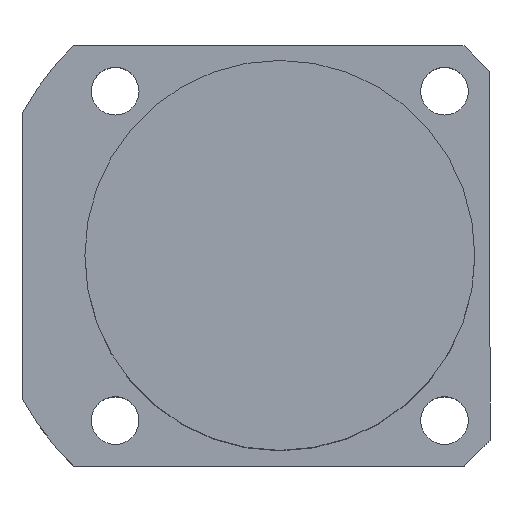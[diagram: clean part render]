
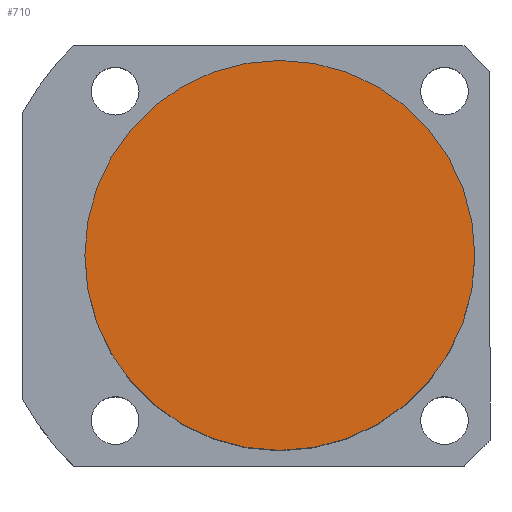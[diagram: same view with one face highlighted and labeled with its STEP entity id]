
A CAD part, top view. The second image highlights one B-rep face of the part: STEP entity #710.
In plain terms, the highlighted planar face has unit normal (0, 0, 1).
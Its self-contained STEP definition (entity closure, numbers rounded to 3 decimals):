
#58 = VERTEX_POINT ( 'NONE', #922 ) ;
#85 = CIRCLE ( 'NONE', #90, 45. ) ;
#90 = AXIS2_PLACEMENT_3D ( 'NONE', #1224, #244, #1201 ) ;
#155 = CARTESIAN_POINT ( 'NONE',  ( -45., 0., 79.5 ) ) ;
#194 = CARTESIAN_POINT ( 'NONE',  ( 0., 0., 79.5 ) ) ;
#244 = DIRECTION ( 'NONE',  ( 0., 0., 1. ) ) ;
#295 = DIRECTION ( 'NONE',  ( 0., 0., 1. ) ) ;
#370 = CIRCLE ( 'NONE', #835, 45. ) ;
#431 = EDGE_LOOP ( 'NONE', ( #1304, #860 ) ) ;
#548 = DIRECTION ( 'NONE',  ( 1., 0., 0. ) ) ;
#710 = ADVANCED_FACE ( 'NONE', ( #731 ), #1412, .T. ) ;
#731 = FACE_OUTER_BOUND ( 'NONE', #431, .T. ) ;
#835 = AXIS2_PLACEMENT_3D ( 'NONE', #194, #1427, #1686 ) ;
#842 = AXIS2_PLACEMENT_3D ( 'NONE', #1544, #295, #548 ) ;
#860 = ORIENTED_EDGE ( 'NONE', *, *, #1055, .T. ) ;
#922 = CARTESIAN_POINT ( 'NONE',  ( 45., 0., 79.5 ) ) ;
#1055 = EDGE_CURVE ( 'NONE', #58, #1164, #85, .T. ) ;
#1164 = VERTEX_POINT ( 'NONE', #155 ) ;
#1201 = DIRECTION ( 'NONE',  ( 1., 0., 0. ) ) ;
#1224 = CARTESIAN_POINT ( 'NONE',  ( 0., 0., 79.5 ) ) ;
#1304 = ORIENTED_EDGE ( 'NONE', *, *, #1669, .T. ) ;
#1412 = PLANE ( 'NONE',  #842 ) ;
#1427 = DIRECTION ( 'NONE',  ( 0., 0., 1. ) ) ;
#1544 = CARTESIAN_POINT ( 'NONE',  ( 0., 0., 79.5 ) ) ;
#1669 = EDGE_CURVE ( 'NONE', #1164, #58, #370, .T. ) ;
#1686 = DIRECTION ( 'NONE',  ( 1., 0., 0. ) ) ;
